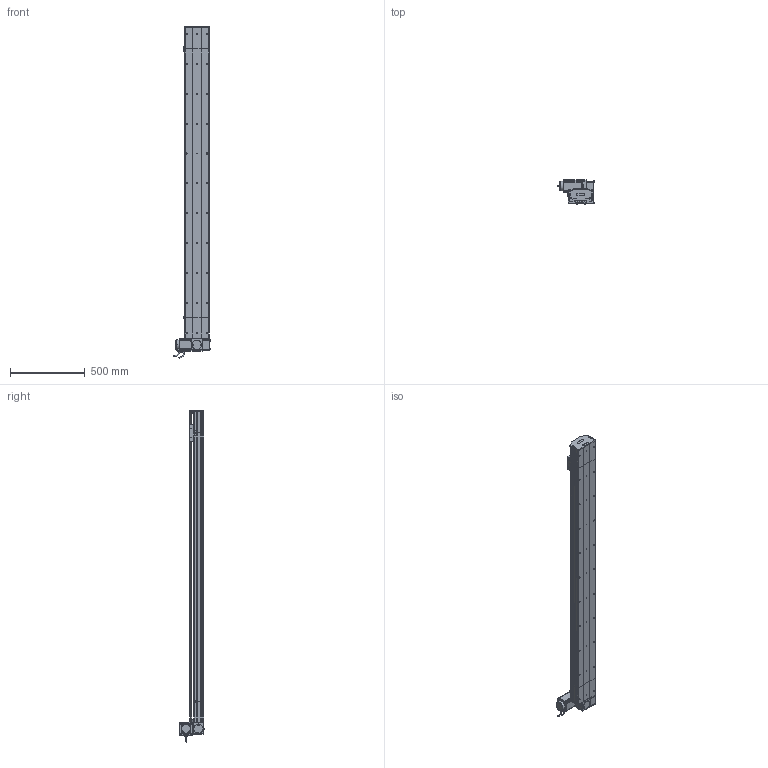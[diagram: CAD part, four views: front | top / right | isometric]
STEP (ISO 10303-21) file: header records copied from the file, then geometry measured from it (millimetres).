
FILE_DESCRIPTION (( 'STEP AP214' ), '1' );
FILE_NAME ('D17 TBN LT S1800.STEP', '2010-06-30T11:09:04', ( 'Christophe Gaillard' ), ( 'SGA' ), 'SwSTEP 2.0', 'SolidWorks 2010', '' );
FILE_SCHEMA (( 'AUTOMOTIVE_DESIGN' ));
Length unit declared in the file: millimetre
Products named in the file (40): couvercle D17B head_Default; couvercle D17B_Default; plaque de  bout head D17B LT_Default; tete d''axe poulie D17B; course 1800 D17B_Default; Rail D17B; Couroie+ rail D17 Course 1800 ; corp D17B 1800_Default; couvercle D17B course L1800_Default; vis M5 L12_Default; vis M5 L25_Default; chariot D17 TBN; Chariot D17 TBN; guide D17; corpl tail D17B_Default; Tail D17B_Default; vis M5 L16_Default; Plaque racord D17_Default; Vis M5 L16-2_Default; vis M5 L70_Default; Conecteur_Default; Conecteur2_Default; Moteur motionking 90BLDC125A-640; Renvoi LT_Default; couroie head D17_Default; codeur 90BLDC125-640; corps 90BLDC125A-640; avant 90BLDC125A-640; cache arbre D17_Default; poulie head_Default; vis M5 L5_Default; cache D17_Default; vis M5 L8 90°_Default; poulie tail_Default; D17 TBN LT S1800; plaque de  bout tail D17B_Default; Head LT D17B_Default; corpl head D17 _Default; Arbre+rail head D17B; Couroie tail D17B_Default
Assembly tree (66 placements, depth 4):
  D17 TBN LT S1800
    Head LT D17B_Default
      cache arbre D17_Default
      vis M5 L12_Default  x8
      vis M5 L16_Default  x2
      Vis M5 L16-2_Default  x4
      vis M5 L5_Default  x4
      Moteur motionking 90BLDC125A-640
        avant 90BLDC125A-640
        codeur 90BLDC125-640
        Conecteur2_Default
        Conecteur_Default
        corps 90BLDC125A-640
      vis M5 L70_Default  x4
      cache D17_Default  x2
      Renvoi LT_Default
      poulie head_Default
      couroie head D17_Default
      Plaque racord D17_Default
      plaque de  bout head D17B LT_Default
      Arbre+rail head D17B
      couvercle D17B head_Default
      corpl head D17 _Default
      vis M5 L25_Default  x2
    Tail D17B_Default
      vis M5 L12_Default  x4
      vis M5 L8 90°_Default  x2
      tete d''axe poulie D17B
      corpl tail D17B_Default
      Rail D17B
      couvercle D17B_Default
      vis M5 L25_Default  x2
      plaque de  bout tail D17B_Default
      poulie tail_Default
      Couroie tail D17B_Default
    course 1800 D17B_Default
      Couroie+ rail D17 Course 1800 
      couvercle D17B course L1800_Default
      corp D17B 1800_Default
    chariot D17 TBN
      guide D17  x2
      Chariot D17 TBN
Bounding box: 245.2 x 166.15 x 2223.95 mm (x, y, z)
Volume: 13142366.1 mm3; surface area: 3774602.1 mm2
Topology: 89 solids, 89 shells, 2579 faces, 6561 edges, 4230 vertices
Faces by surface type: plane 1533, cylinder 749, bspline 136, cone 80, torus 77, sphere 4
Entity records: 83387 total; most frequent: CARTESIAN_POINT 24903, ORIENTED_EDGE 10294, DIRECTION 9732, EDGE_CURVE 5147, VECTOR 3426, LINE 3426, VERTEX_POINT 3374, AXIS2_PLACEMENT_3D 3153
